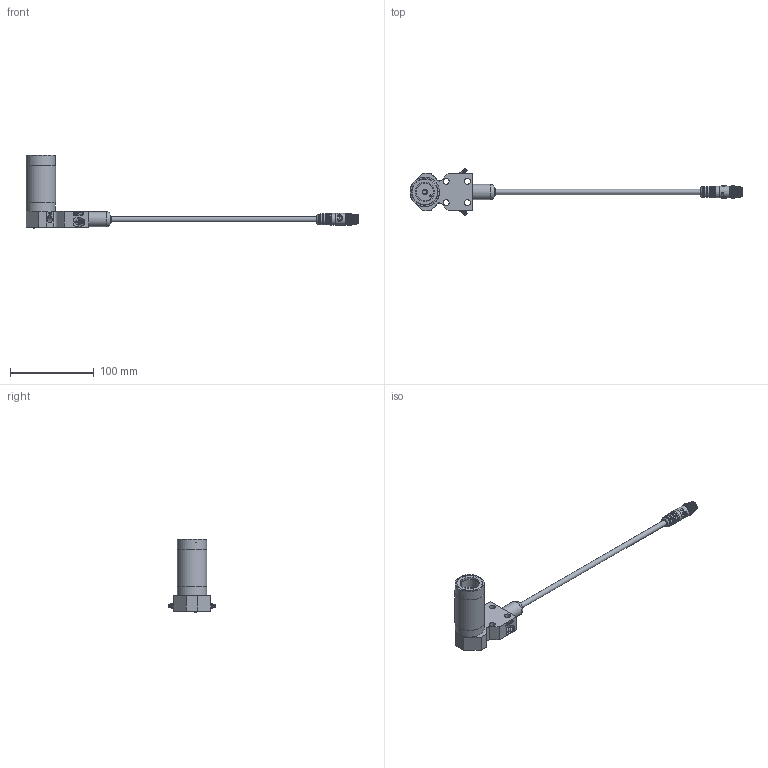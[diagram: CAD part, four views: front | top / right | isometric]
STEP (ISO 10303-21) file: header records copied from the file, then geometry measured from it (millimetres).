
FILE_DESCRIPTION(/* description */ ('ASSY,BODY,VF,IA,SXTR3,NHP_0002707702'),/* implementation_level */ '2;1');
FILE_NAME(/* name */ 'X:\ASSY,BODY,VF,IA,SXTR3,NHP_0002707702.stp',/* time_stamp */ '2021-07-07T14:00:44-04:00',/* author */ ('Simon.Britton'),/* organization */ (''),/* preprocessor_version */ 'ST-DEVELOPER v17',/* originating_system */ 'Autodesk Inventor 2019',/* authorisation */ '');
FILE_SCHEMA (('AUTOMOTIVE_DESIGN { 1 0 10303 214 3 1 1 }'));
Length unit declared in the file: millimetre
Products named in the file (1): ASSY,BODY,VF,IA,SXTR3,NHP
Bounding box: 395.42 x 56.29 x 87.38 mm (x, y, z)
Volume: 103976.3 mm3; surface area: 61246.7 mm2
Topology: 1 solids, 68 shells, 3853 faces, 9073 edges, 5416 vertices
Faces by surface type: bspline 2425, cylinder 681, plane 646, cone 58, torus 26, sphere 17
Full cylindrical faces by diameter (mm): 1 x5, 1.05 x5, 1.25 x10, 1.35 x5, 1.6 x10, 1.8 x5, 1.85 x5, 2 x1, 2.381 x2, 2.388 x4, 2.464 x1, 2.7 x1, 3 x1, 3.175 x2, 3.2 x1, 3.734 x4, 3.81 x2, 4.064 x4, 4.216 x4, 4.366 x1, 4.496 x4, 4.8 x3, 6.35 x3, 6.4 x1, 6.5 x1, 7.144 x4, 8.731 x3, 9.4 x1, 9.7 x2, 10.6 x2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
Entity records: 252126 total; most frequent: CARTESIAN_POINT 169729, ORIENTED_EDGE 18104, DIRECTION 13342, EDGE_CURVE 9052, AXIS2_PLACEMENT_3D 5777, VERTEX_POINT 5416, CIRCLE 4291, EDGE_LOOP 4017
